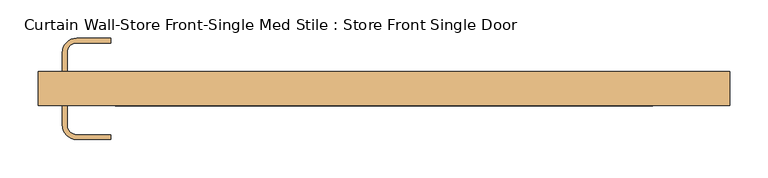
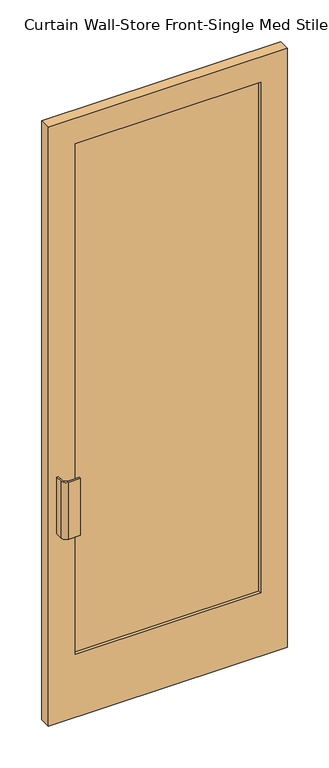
"""IFC4 building model written with IfcOpenShell, lengths in millimetres: door geometry, Curtain Wall-Store Front-Single Med Stile : Store Front Single Door."""

from ifc_helpers import new_model, si_unit, point, frame, frame_2d, origin, place, context, project, spatial, polyline, circle_curve, trimmed, segment, composite_curve, outline, extrude, source, transform, mapped, element, save


def curtain_wall_store_front_single_med_stile_store_front_single_c6cdc8f1(model_context):
    return source(origin(), model_context, "Body", "SweptSolid", [
        extrude(outline(composite_curve([segment(trimmed(circle_curve(frame_2d((-406.796875, 12.7)), 19.05), [point((-425.846875, 12.7))], [point((-406.796875, 31.75))], False, "CARTESIAN"), True, "CONTINUOUS"), segment(polyline([(-406.796875, 31.75), (-362.346875, 31.75), (-362.346875, 25.4), (-406.796875, 25.4)]), True, "CONTINUOUS"), segment(trimmed(circle_curve(frame_2d((-406.796875, 12.7)), 12.7), [point((-406.796875, 25.4))], [point((-419.496875, 12.7))], True, "CARTESIAN"), True, "CONTINUOUS"), segment(polyline([(-419.496875, 12.7), (-419.496875, -12.7), (-425.846875, -12.7), (-425.846875, 12.7)]), True, "CONTINUOUS")], self_intersect=False)), frame((0.0, 0.0, 762.0), z_axis=(0.0, 0.0, 1.0), x_axis=(1.0, 0.0, 0.0)), (0.0, 0.0, 1.0), 228.6),
        extrude(outline(composite_curve([segment(polyline([(-425.846875, -82.55), (-425.846875, -57.15), (-419.496875, -57.15), (-419.496875, -82.55)]), True, "CONTINUOUS"), segment(trimmed(circle_curve(frame_2d((-406.796875, -82.55)), 12.7), [point((-419.496875, -82.55))], [point((-406.796875, -95.25))], True, "CARTESIAN"), True, "CONTINUOUS"), segment(polyline([(-406.796875, -95.25), (-362.346875, -95.25), (-362.346875, -101.6), (-406.796875, -101.6)]), True, "CONTINUOUS"), segment(trimmed(circle_curve(frame_2d((-406.796875, -82.55)), 19.05), [point((-406.796875, -101.6))], [point((-425.846875, -82.55))], False, "CARTESIAN"), True, "CONTINUOUS")], self_intersect=False)), frame((0.0, 0.0, 762.0), z_axis=(0.0, 0.0, 1.0), x_axis=(1.0, 0.0, 0.0)), (0.0, 0.0, 1.0), 228.6),
        extrude(outline(polyline([(392.90625, -25.4), (392.90625, -44.45), (-399.653125, -44.45), (-399.653125, -25.4), (392.90625, -25.4)])), frame((0.0, 0.0, 57.15), z_axis=(0.0, 0.0, 1.0), x_axis=(1.0, 0.0, 0.0)), (0.0, 0.0, 1.0), 2292.35),
        extrude(outline(polyline([(2406.65, -457.596875), (0.0, -457.596875), (0.0, 450.453125), (2406.65, 450.453125), (2406.65, -457.596875)]), holes=[polyline([(2305.05, -355.996875), (2305.05, 348.853125), (254.0, 348.853125), (254.0, -355.996875), (2305.05, -355.996875)])]), frame((0.0, -57.15, 0.0), z_axis=(0.0, 1.0, 0.0), x_axis=(0.0, 0.0, 1.0)), (0.0, 0.0, 1.0), 44.45),
    ])


if __name__ == "__main__":
    model = new_model("IFC4")
    model_context = context("Model", 3, world=origin())
    ifc_project = project(units=[si_unit("LENGTHUNIT", "METRE", prefix="MILLI")], contexts=[model_context])
    site = spatial("IfcSite", under=ifc_project)
    building = spatial("IfcBuilding", under=site)
    placement = place(None, origin())
    curtain_wall_store_front_single_med_stile_store_front_single_shape = curtain_wall_store_front_single_med_stile_store_front_single_c6cdc8f1(model_context)
    element("IfcDoor", 1, ObjectType="Curtain Wall-Store Front-Single Med Stile : Store Front Single Door", at=placement, inside=building, context=model_context, shape_type="MappedRepresentation", body=[
        mapped(curtain_wall_store_front_single_med_stile_store_front_single_shape, transform((0.0, 0.0, 0.0), x_axis=(1.0, 0.0, 0.0), y_axis=(0.0, 1.0, 0.0), z_axis=(0.0, 0.0, 1.0))),
    ])
    save(model, "model.ifc")
